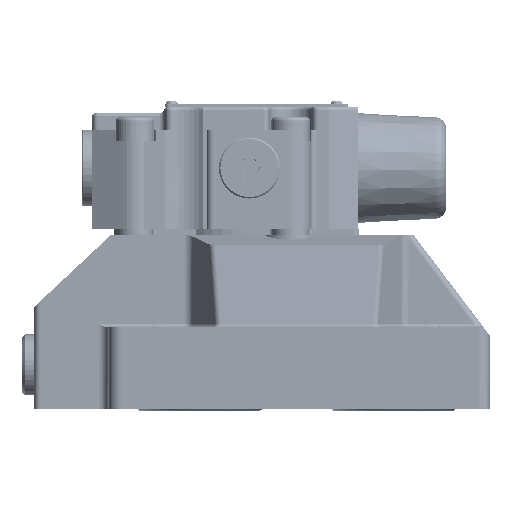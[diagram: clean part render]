
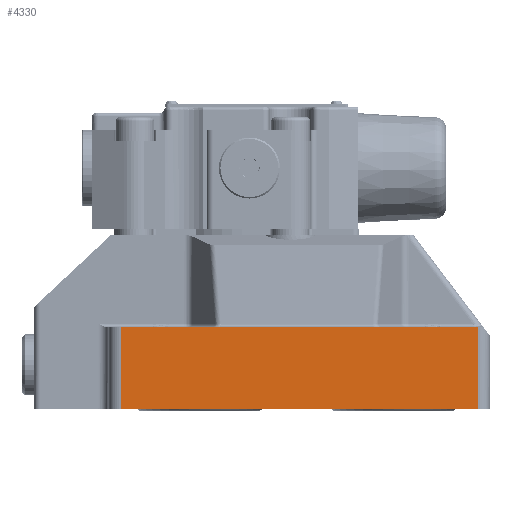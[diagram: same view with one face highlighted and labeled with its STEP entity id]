
A CAD part, front view. The second image highlights one B-rep face of the part: STEP entity #4330.
In plain terms, the highlighted planar face has unit normal (0, -1, 0).
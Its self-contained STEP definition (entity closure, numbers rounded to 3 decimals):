
#695=LINE('',#17069,#1276);
#792=LINE('',#17614,#1373);
#805=LINE('',#17688,#1386);
#806=LINE('',#17689,#1387);
#1276=VECTOR('',#13254,1.);
#1373=VECTOR('',#13497,1.);
#1386=VECTOR('',#13574,1.);
#1387=VECTOR('',#13575,1.);
#3810=FACE_OUTER_BOUND('',#5644,.T.);
#4330=ADVANCED_FACE('',(#3810),#4954,.T.);
#4954=PLANE('',#12152);
#5644=EDGE_LOOP('',(#6735,#6736,#6737,#6738));
#6735=ORIENTED_EDGE('',*,*,#10349,.T.);
#6736=ORIENTED_EDGE('',*,*,#10386,.T.);
#6737=ORIENTED_EDGE('',*,*,#10181,.F.);
#6738=ORIENTED_EDGE('',*,*,#10387,.T.);
#9210=VERTEX_POINT('',#17070);
#9211=VERTEX_POINT('',#17071);
#9374=VERTEX_POINT('',#17613);
#9375=VERTEX_POINT('',#17615);
#10181=EDGE_CURVE('',#9210,#9211,#695,.T.);
#10349=EDGE_CURVE('',#9375,#9374,#792,.T.);
#10386=EDGE_CURVE('',#9374,#9211,#805,.T.);
#10387=EDGE_CURVE('',#9210,#9375,#806,.T.);
#12152=AXIS2_PLACEMENT_3D('',#17690,#13576,#13577);
#13254=DIRECTION('',(1.,0.,0.));
#13497=DIRECTION('',(1.,0.,0.));
#13574=DIRECTION('',(0.,0.,1.));
#13575=DIRECTION('',(0.,0.,-1.));
#13576=DIRECTION('',(0.,-1.,0.));
#13577=DIRECTION('',(1.,0.,0.));
#17069=CARTESIAN_POINT('',(-615.97,-114.432,58.));
#17070=CARTESIAN_POINT('',(-736.77,-114.432,58.));
#17071=CARTESIAN_POINT('',(-619.97,-114.432,58.));
#17613=CARTESIAN_POINT('',(-619.97,-114.432,31.));
#17614=CARTESIAN_POINT('',(-615.97,-114.432,31.));
#17615=CARTESIAN_POINT('',(-736.77,-114.432,31.));
#17688=CARTESIAN_POINT('',(-619.97,-114.432,55.025));
#17689=CARTESIAN_POINT('',(-736.77,-114.432,31.));
#17690=CARTESIAN_POINT('',(-615.97,-114.432,31.));
